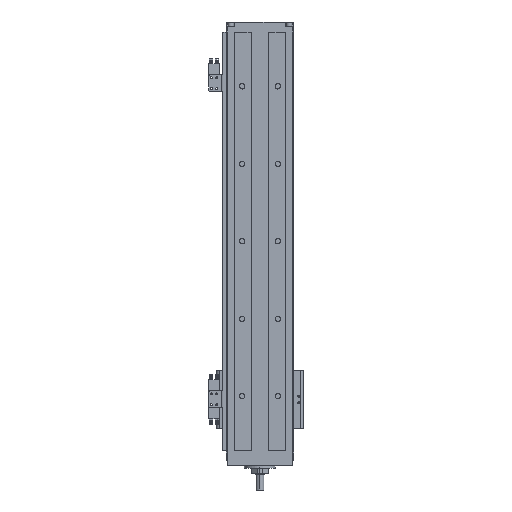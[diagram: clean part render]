
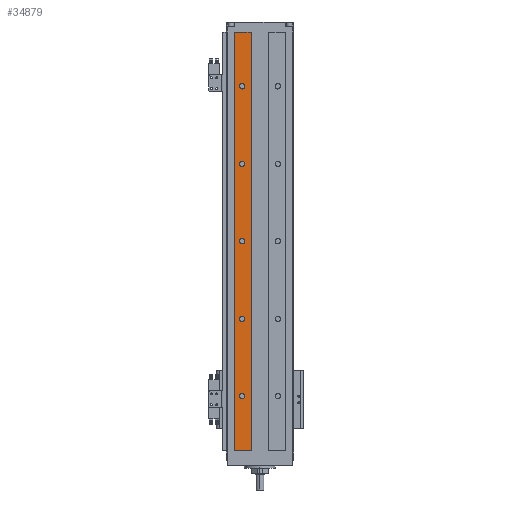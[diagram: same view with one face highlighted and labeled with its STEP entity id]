
A CAD part, front view. The second image highlights one B-rep face of the part: STEP entity #34879.
In plain terms, the highlighted planar face has unit normal (0, -1, 0).
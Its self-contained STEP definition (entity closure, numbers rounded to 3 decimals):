
#136 = ORIENTED_EDGE ( 'NONE', *, *, #23903, .T. ) ;
#482 = DIRECTION ( 'NONE',  ( 0., 1., 0. ) ) ;
#752 = DIRECTION ( 'NONE',  ( 0., 1., 0. ) ) ;
#1256 = CIRCLE ( 'NONE', #26720, 3.5 ) ;
#2423 = DIRECTION ( 'NONE',  ( -1., 0., 0. ) ) ;
#2616 = EDGE_LOOP ( 'NONE', ( #35827, #11830, #45612, #44579 ) ) ;
#2942 = FACE_BOUND ( 'NONE', #41400, .T. ) ;
#3224 = VERTEX_POINT ( 'NONE', #32974 ) ;
#3848 = AXIS2_PLACEMENT_3D ( 'NONE', #45822, #45461, #32704 ) ;
#4227 = ORIENTED_EDGE ( 'NONE', *, *, #11472, .T. ) ;
#5012 = DIRECTION ( 'NONE',  ( 0., 0., -1. ) ) ;
#5376 = CARTESIAN_POINT ( 'NONE',  ( -23., 0., 270. ) ) ;
#7195 = AXIS2_PLACEMENT_3D ( 'NONE', #35726, #22146, #43560 ) ;
#7525 = DIRECTION ( 'NONE',  ( 0., 0., -1. ) ) ;
#7527 = AXIS2_PLACEMENT_3D ( 'NONE', #5376, #48075, #5012 ) ;
#8185 = CARTESIAN_POINT ( 'NONE',  ( -23., 0., 70. ) ) ;
#8333 = VERTEX_POINT ( 'NONE', #22145 ) ;
#8395 = DIRECTION ( 'NONE',  ( 0., 1., 0. ) ) ;
#8577 = EDGE_CURVE ( 'NONE', #20766, #49779, #20449, .T. ) ;
#8870 = VERTEX_POINT ( 'NONE', #42658 ) ;
#8991 = EDGE_LOOP ( 'NONE', ( #34365, #46005 ) ) ;
#9308 = AXIS2_PLACEMENT_3D ( 'NONE', #8185, #8395, #38264 ) ;
#11472 = EDGE_CURVE ( 'NONE', #50495, #52981, #14684, .T. ) ;
#11761 = VERTEX_POINT ( 'NONE', #18552 ) ;
#11830 = ORIENTED_EDGE ( 'NONE', *, *, #16472, .F. ) ;
#13346 = EDGE_CURVE ( 'NONE', #19170, #16271, #21859, .T. ) ;
#13495 = CARTESIAN_POINT ( 'NONE',  ( -23., 0., 170. ) ) ;
#13958 = CARTESIAN_POINT ( 'NONE',  ( 43., 0., 540. ) ) ;
#14684 = CIRCLE ( 'NONE', #3848, 3.5 ) ;
#14780 = EDGE_CURVE ( 'NONE', #48177, #8870, #37630, .T. ) ;
#15251 = DIRECTION ( 'NONE',  ( 0., 1., 0. ) ) ;
#16271 = VERTEX_POINT ( 'NONE', #25439 ) ;
#16472 = EDGE_CURVE ( 'NONE', #8870, #49779, #45464, .T. ) ;
#16539 = VECTOR ( 'NONE', #41383, 1000. ) ;
#18170 = VERTEX_POINT ( 'NONE', #19542 ) ;
#18464 = CARTESIAN_POINT ( 'NONE',  ( -23., 0., 173.5 ) ) ;
#18552 = CARTESIAN_POINT ( 'NONE',  ( -23., 0., 366.5 ) ) ;
#18761 = ORIENTED_EDGE ( 'NONE', *, *, #23073, .T. ) ;
#19170 = VERTEX_POINT ( 'NONE', #38973 ) ;
#19542 = CARTESIAN_POINT ( 'NONE',  ( -23., 0., 466.5 ) ) ;
#19865 = CARTESIAN_POINT ( 'NONE',  ( 43., 0., 540. ) ) ;
#20449 = LINE ( 'NONE', #19865, #30552 ) ;
#20766 = VERTEX_POINT ( 'NONE', #27374 ) ;
#21537 = DIRECTION ( 'NONE',  ( 0., 1., 0. ) ) ;
#21743 = FACE_BOUND ( 'NONE', #42714, .T. ) ;
#21859 = CIRCLE ( 'NONE', #7527, 3.5 ) ;
#22145 = CARTESIAN_POINT ( 'NONE',  ( -23., 0., 166.5 ) ) ;
#22146 = DIRECTION ( 'NONE',  ( 0., 1., 0. ) ) ;
#22252 = ORIENTED_EDGE ( 'NONE', *, *, #25113, .T. ) ;
#22274 = DIRECTION ( 'NONE',  ( 0., 0., -1. ) ) ;
#22441 = CARTESIAN_POINT ( 'NONE',  ( -32.5, 0., 540. ) ) ;
#22933 = CIRCLE ( 'NONE', #27625, 3.5 ) ;
#23073 = EDGE_CURVE ( 'NONE', #18170, #35563, #22933, .T. ) ;
#23489 = CIRCLE ( 'NONE', #48538, 3.5 ) ;
#23554 = VECTOR ( 'NONE', #7525, 1000. ) ;
#23903 = EDGE_CURVE ( 'NONE', #8333, #34797, #23489, .T. ) ;
#23944 = AXIS2_PLACEMENT_3D ( 'NONE', #52195, #482, #43492 ) ;
#24471 = FACE_BOUND ( 'NONE', #35685, .T. ) ;
#24953 = ORIENTED_EDGE ( 'NONE', *, *, #25549, .T. ) ;
#25113 = EDGE_CURVE ( 'NONE', #34797, #8333, #45436, .T. ) ;
#25439 = CARTESIAN_POINT ( 'NONE',  ( -23., 0., 266.5 ) ) ;
#25549 = EDGE_CURVE ( 'NONE', #52981, #50495, #42740, .T. ) ;
#26720 = AXIS2_PLACEMENT_3D ( 'NONE', #47942, #752, #26893 ) ;
#26893 = DIRECTION ( 'NONE',  ( 0., 0., -1. ) ) ;
#26915 = DIRECTION ( 'NONE',  ( 0., 0., -1. ) ) ;
#27330 = CARTESIAN_POINT ( 'NONE',  ( 43., 0., 0. ) ) ;
#27374 = CARTESIAN_POINT ( 'NONE',  ( -11.5, 0., 540. ) ) ;
#27625 = AXIS2_PLACEMENT_3D ( 'NONE', #29797, #47113, #46732 ) ;
#27990 = CARTESIAN_POINT ( 'NONE',  ( -23., 0., 473.5 ) ) ;
#29797 = CARTESIAN_POINT ( 'NONE',  ( -23., 0., 470. ) ) ;
#30552 = VECTOR ( 'NONE', #2423, 1000. ) ;
#32239 = CIRCLE ( 'NONE', #55107, 3.5 ) ;
#32540 = DIRECTION ( 'NONE',  ( 0., 0., -1. ) ) ;
#32704 = DIRECTION ( 'NONE',  ( 0., 0., -1. ) ) ;
#32974 = CARTESIAN_POINT ( 'NONE',  ( -23., 0., 373.5 ) ) ;
#33531 = ORIENTED_EDGE ( 'NONE', *, *, #48752, .T. ) ;
#34365 = ORIENTED_EDGE ( 'NONE', *, *, #38418, .T. ) ;
#34557 = FACE_BOUND ( 'NONE', #42892, .T. ) ;
#34797 = VERTEX_POINT ( 'NONE', #18464 ) ;
#34879 = ADVANCED_FACE ( 'NONE', ( #47342, #2942, #34557, #35925, #21743, #24471 ), #39684, .T. ) ;
#35563 = VERTEX_POINT ( 'NONE', #27990 ) ;
#35685 = EDGE_LOOP ( 'NONE', ( #24953, #4227 ) ) ;
#35726 = CARTESIAN_POINT ( 'NONE',  ( -23., 0., 170. ) ) ;
#35827 = ORIENTED_EDGE ( 'NONE', *, *, #8577, .T. ) ;
#35925 = FACE_BOUND ( 'NONE', #8991, .T. ) ;
#36722 = CARTESIAN_POINT ( 'NONE',  ( -32.5, 0., 540. ) ) ;
#37630 = LINE ( 'NONE', #27330, #41014 ) ;
#38264 = DIRECTION ( 'NONE',  ( 0., 0., -1. ) ) ;
#38418 = EDGE_CURVE ( 'NONE', #16271, #19170, #54499, .T. ) ;
#38973 = CARTESIAN_POINT ( 'NONE',  ( -23., 0., 273.5 ) ) ;
#39684 = PLANE ( 'NONE',  #50016 ) ;
#40260 = DIRECTION ( 'NONE',  ( -1., 0., 0. ) ) ;
#40964 = CARTESIAN_POINT ( 'NONE',  ( -23., 0., 370. ) ) ;
#41014 = VECTOR ( 'NONE', #40260, 1000. ) ;
#41383 = DIRECTION ( 'NONE',  ( 0., 0., 1. ) ) ;
#41400 = EDGE_LOOP ( 'NONE', ( #18761, #54508 ) ) ;
#41450 = CARTESIAN_POINT ( 'NONE',  ( -23., 0., 66.5 ) ) ;
#42063 = CARTESIAN_POINT ( 'NONE',  ( -23., 0., 73.5 ) ) ;
#42658 = CARTESIAN_POINT ( 'NONE',  ( -32.5, 0., 0. ) ) ;
#42714 = EDGE_LOOP ( 'NONE', ( #136, #22252 ) ) ;
#42740 = CIRCLE ( 'NONE', #9308, 3.5 ) ;
#42806 = CARTESIAN_POINT ( 'NONE',  ( -11.5, 0., 0. ) ) ;
#42892 = EDGE_LOOP ( 'NONE', ( #33531, #43196 ) ) ;
#43194 = EDGE_CURVE ( 'NONE', #20766, #48177, #47758, .T. ) ;
#43196 = ORIENTED_EDGE ( 'NONE', *, *, #43554, .T. ) ;
#43492 = DIRECTION ( 'NONE',  ( 0., 0., -1. ) ) ;
#43543 = DIRECTION ( 'NONE',  ( 0., 1., 0. ) ) ;
#43554 = EDGE_CURVE ( 'NONE', #3224, #11761, #32239, .T. ) ;
#43560 = DIRECTION ( 'NONE',  ( 0., 0., -1. ) ) ;
#43687 = CARTESIAN_POINT ( 'NONE',  ( -23., 0., 370. ) ) ;
#43804 = EDGE_CURVE ( 'NONE', #35563, #18170, #1256, .T. ) ;
#43993 = DIRECTION ( 'NONE',  ( 0., -1., 0. ) ) ;
#44579 = ORIENTED_EDGE ( 'NONE', *, *, #43194, .F. ) ;
#45436 = CIRCLE ( 'NONE', #7195, 3.5 ) ;
#45461 = DIRECTION ( 'NONE',  ( 0., 1., 0. ) ) ;
#45464 = LINE ( 'NONE', #36722, #16539 ) ;
#45583 = CIRCLE ( 'NONE', #46385, 3.5 ) ;
#45612 = ORIENTED_EDGE ( 'NONE', *, *, #14780, .F. ) ;
#45822 = CARTESIAN_POINT ( 'NONE',  ( -23., 0., 70. ) ) ;
#46005 = ORIENTED_EDGE ( 'NONE', *, *, #13346, .T. ) ;
#46385 = AXIS2_PLACEMENT_3D ( 'NONE', #40964, #15251, #32540 ) ;
#46604 = CARTESIAN_POINT ( 'NONE',  ( -11.5, 0., 540. ) ) ;
#46732 = DIRECTION ( 'NONE',  ( 0., 0., -1. ) ) ;
#47113 = DIRECTION ( 'NONE',  ( 0., 1., 0. ) ) ;
#47342 = FACE_OUTER_BOUND ( 'NONE', #2616, .T. ) ;
#47758 = LINE ( 'NONE', #46604, #23554 ) ;
#47893 = DIRECTION ( 'NONE',  ( 0., 0., -1. ) ) ;
#47942 = CARTESIAN_POINT ( 'NONE',  ( -23., 0., 470. ) ) ;
#48075 = DIRECTION ( 'NONE',  ( 0., 1., 0. ) ) ;
#48177 = VERTEX_POINT ( 'NONE', #42806 ) ;
#48538 = AXIS2_PLACEMENT_3D ( 'NONE', #13495, #43543, #47893 ) ;
#48752 = EDGE_CURVE ( 'NONE', #11761, #3224, #45583, .T. ) ;
#49779 = VERTEX_POINT ( 'NONE', #22441 ) ;
#50016 = AXIS2_PLACEMENT_3D ( 'NONE', #13958, #43993, #26915 ) ;
#50495 = VERTEX_POINT ( 'NONE', #42063 ) ;
#52195 = CARTESIAN_POINT ( 'NONE',  ( -23., 0., 270. ) ) ;
#52981 = VERTEX_POINT ( 'NONE', #41450 ) ;
#54499 = CIRCLE ( 'NONE', #23944, 3.5 ) ;
#54508 = ORIENTED_EDGE ( 'NONE', *, *, #43804, .T. ) ;
#55107 = AXIS2_PLACEMENT_3D ( 'NONE', #43687, #21537, #22274 ) ;
